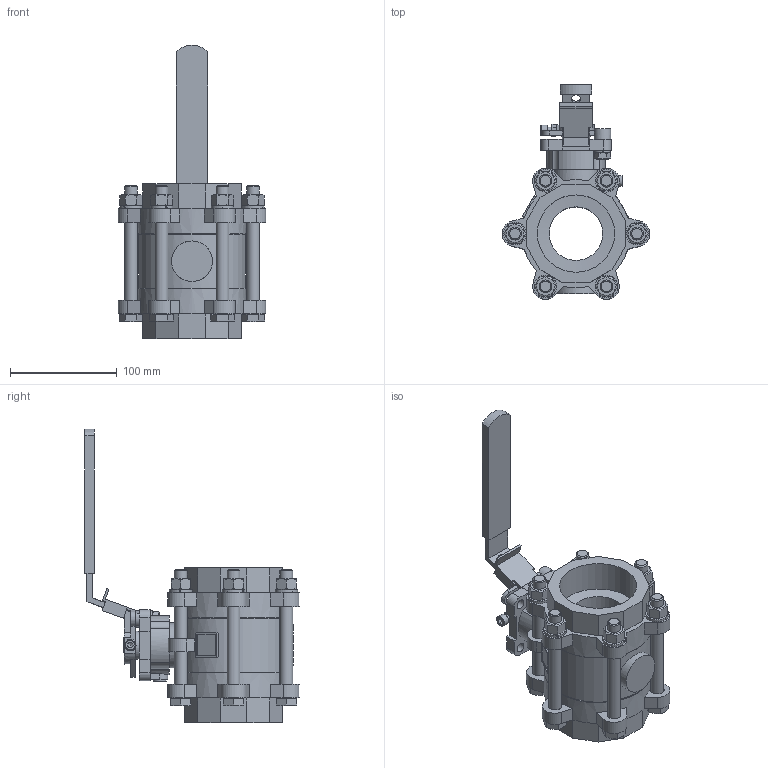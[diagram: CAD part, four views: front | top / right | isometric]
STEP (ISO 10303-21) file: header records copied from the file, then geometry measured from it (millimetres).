
FILE_DESCRIPTION(/* description */ ('13278912'),/* implementation_level */ '2;1');
FILE_NAME(/* name */ 'L:\DATA\ENG\Inventor\Econ 3D modellen\kogelkranen\7442\Rubens Versie\7442-DN65-RB.stp',/* time_stamp */ '2023-06-08T08:12:22+02:00',/* author */ ('roger.thijssen'),/* organization */ (''),/* preprocessor_version */ 'ST-DEVELOPER v18',/* originating_system */ 'Autodesk Inventor 2020',/* authorisation */ '');
FILE_SCHEMA (('CONFIG_CONTROL_DESIGN'));
Length unit declared in the file: millimetre
Products named in the file (1): Ball valve, 7442 - 2.1/2" - RB, (TF4103)
Bounding box: 137.91 x 200.33 x 274.5 mm (x, y, z)
Volume: 1012285.6 mm3; surface area: 181546.7 mm2
Topology: 1 solids, 1 shells, 736 faces, 1988 edges, 1304 vertices
Faces by surface type: plane 461, cylinder 162, cone 80, bspline 30, torus 3
Full cylindrical faces by diameter (mm): 6 x1, 6.4 x1, 8 x3, 8.9 x1, 9 x5, 10 x2, 12 x13, 13 x14, 15.5 x1, 17.4 x6, 38 x1, 42 x1, 50 x1, 55 x1, 72.226 x2, 100 x1, 101 x2
Entity records: 23819 total; most frequent: CARTESIAN_POINT 5259, ORIENTED_EDGE 3974, DIRECTION 3705, EDGE_CURVE 1987, AXIS2_PLACEMENT_3D 1306, VERTEX_POINT 1304, LINE 1093, VECTOR 1093
